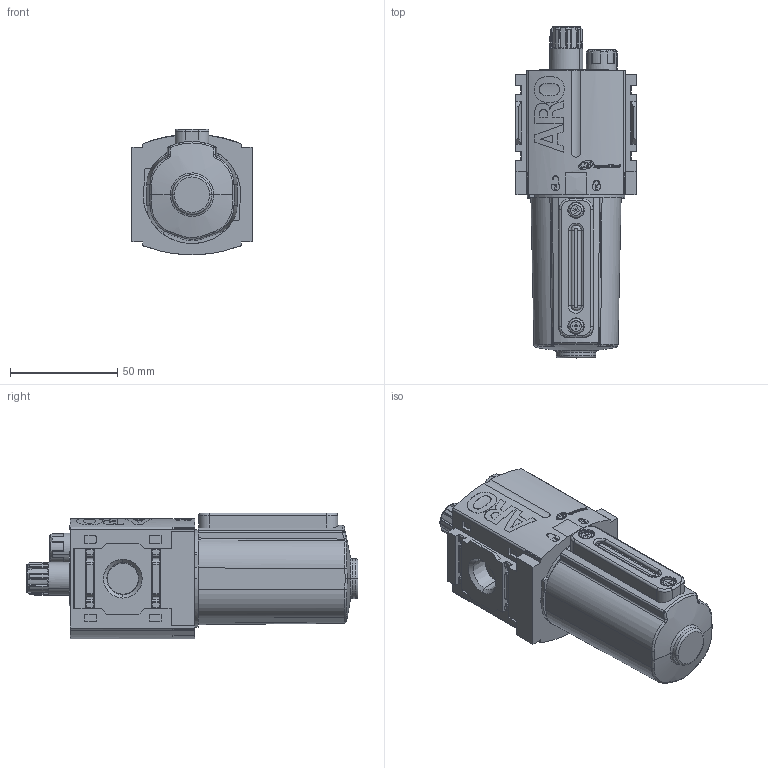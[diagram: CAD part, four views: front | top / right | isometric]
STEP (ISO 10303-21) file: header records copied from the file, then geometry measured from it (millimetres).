
FILE_DESCRIPTION(/* description */ (''),/* implementation_level */ '2;1');
FILE_NAME(/* name */ 'L362X1-X1X_01',/* time_stamp */ '2009-02-04T07:42:11-05:00',/* author */ (''),/* organization */ (''),/* preprocessor_version */ 'ST-DEVELOPER v9',/* originating_system */ 'UGS - NX 4.0',/* authorisation */ '');
FILE_SCHEMA (('AUTOMOTIVE_DESIGN { 1 0 10303 214 1 1 1 1 }'));
Products named in the file (1): szee0781jitx
Bounding box: 56 x 154.6 x 58.5 mm (x, y, z)
Volume: 273477.2 mm3; surface area: 33117.6 mm2
Topology: 1 solids, 1 shells, 1565 faces, 4126 edges, 2682 vertices
Faces by surface type: plane 886, cylinder 357, extrusion 137, torus 72, bspline 63, cone 21, sphere 20, revolution 9
Entity records: 69652 total; most frequent: CARTESIAN_POINT 23713, ORIENTED_EDGE 8250, DIRECTION 5495, EDGE_CURVE 4125, VERTEX_POINT 2686, VECTOR 2254, LINE 2117, B_SPLINE_CURVE_WITH_KNOTS 1799
